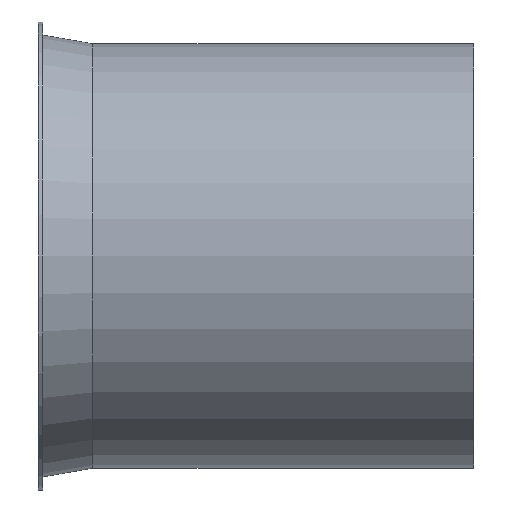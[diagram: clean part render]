
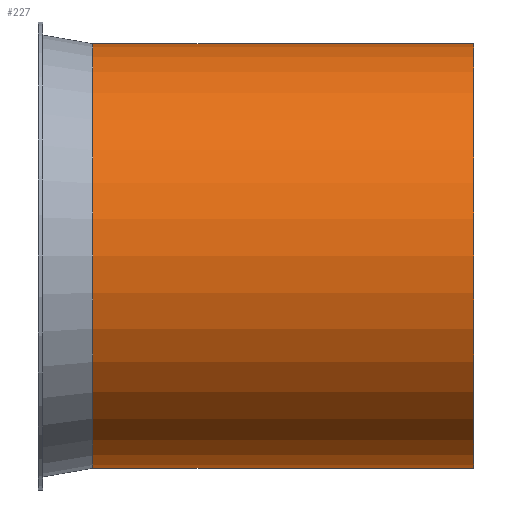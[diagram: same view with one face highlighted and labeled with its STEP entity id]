
A CAD part, front view. The second image highlights one B-rep face of the part: STEP entity #227.
In plain terms, the highlighted cylindrical face has radius 97.5 mm (diameter 195 mm), a full revolution.
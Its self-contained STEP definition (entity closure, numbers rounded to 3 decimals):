
#132=CARTESIAN_POINT('',(-2.081,46.834,0.0));
#133=VERTEX_POINT('',#132);
#134=CARTESIAN_POINT('',(-2.081,144.334,0.0));
#135=DIRECTION('',(-1.0,0.0,0.0));
#136=DIRECTION('',(0.0,-1.0,0.0));
#137=AXIS2_PLACEMENT_3D('',#134,#135,#136);
#138=CIRCLE('',#137,97.5);
#139=EDGE_CURVE('',#133,#133,#138,.T.);
#201=CARTESIAN_POINT('',(172.919,46.834,0.0));
#202=VERTEX_POINT('',#201);
#203=CARTESIAN_POINT('',(172.919,144.334,0.0));
#204=DIRECTION('',(-1.0,0.0,0.0));
#205=DIRECTION('',(0.0,-1.0,0.0));
#206=AXIS2_PLACEMENT_3D('',#203,#204,#205);
#207=CIRCLE('',#206,97.5);
#208=EDGE_CURVE('',#202,#202,#207,.T.);
#216=CARTESIAN_POINT('',(85.419,144.334,0.0));
#217=DIRECTION('',(-1.0,0.,0.0));
#218=DIRECTION('',(0.0,-1.0,0.0));
#219=AXIS2_PLACEMENT_3D('',#216,#217,#218);
#220=CYLINDRICAL_SURFACE('',#219,97.5);
#221=ORIENTED_EDGE('',*,*,#139,.F.);
#222=EDGE_LOOP('',(#221));
#223=FACE_OUTER_BOUND('',#222,.T.);
#224=ORIENTED_EDGE('',*,*,#208,.T.);
#225=EDGE_LOOP('',(#224));
#226=FACE_BOUND('',#225,.T.);
#227=ADVANCED_FACE('',(#223,#226),#220,.T.);
